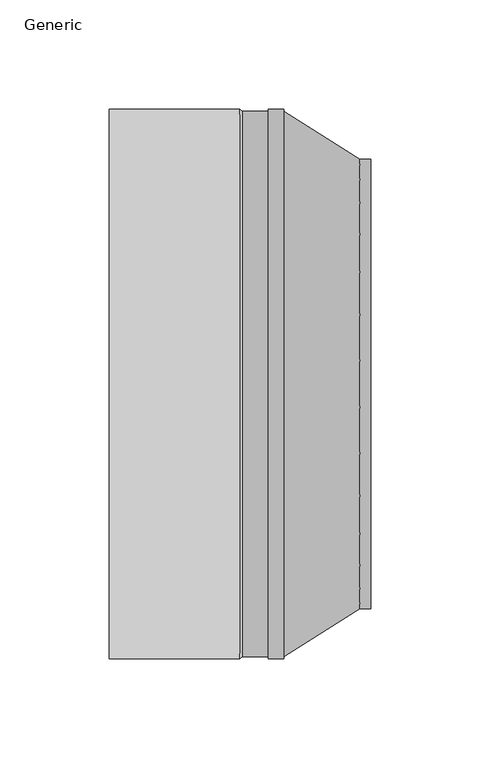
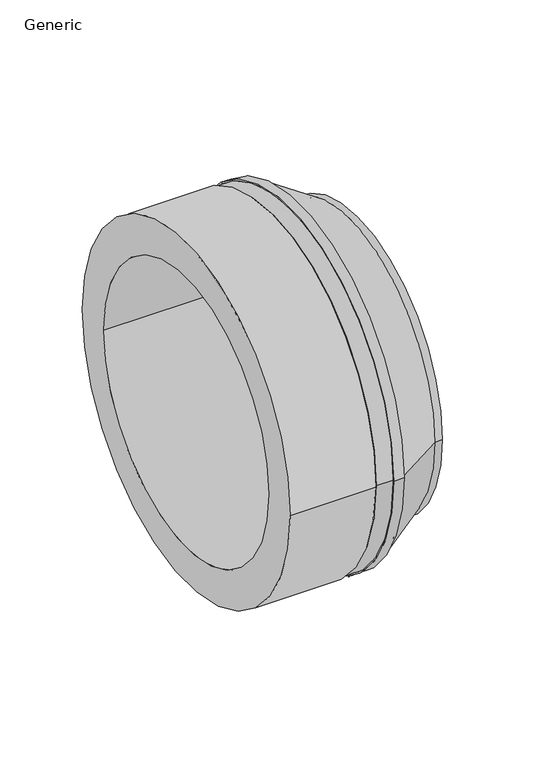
"""IFC4 building model written with IfcOpenShell, lengths in millimetres: pipe fitting geometry, CADS_Jeremias_TopStub_Socket : Generic."""

import ifcopenshell
import ifcopenshell.guid

model = None  # the IFC model being written
_history = None  # IfcOwnerHistory: only IFC2X3 demands one
_inside = {}  # id of a spatial element -> (the spatial element, [elements in it])
_under = {}  # id of a project, library or spatial element -> (it, [spatial elements below it])
_declared = {}  # id of a project -> (the project, [libraries it declares])
_typed = {}  # id of a type object -> (the type object, [elements of that type])
_made_of = {}  # id of a material, layer set ... -> (it, [elements and type objects made of it])


def new_model(schema):
    """Start an empty IFC model of exactly this schema.

    Asked for "IFC4X3", IfcOpenShell would pick the latest addendum, in which some entities
    have other attributes; the version numbers below select the first issue.
    IFC2X3 requires an IfcOwnerHistory on every rooted entity: one is made here for all.
    """
    global model, _history
    if schema == "IFC4X3":
        model = ifcopenshell.file(schema_version=(4, 3, 0, 0))
    else:
        model = ifcopenshell.file(schema=schema)
    _inside.clear()
    _under.clear()
    _declared.clear()
    _typed.clear()
    _made_of.clear()
    _history = None
    if model.schema == "IFC2X3":
        org = make("IfcOrganization", Name="unknown")
        user = make(
            "IfcPersonAndOrganization",
            ThePerson=make("IfcPerson", FamilyName="unknown"),
            TheOrganization=org,
        )
        app = make(
            "IfcApplication",
            ApplicationDeveloper=org,
            Version="unknown",
            ApplicationFullName="unknown",
            ApplicationIdentifier="unknown",
        )
        _history = make(
            "IfcOwnerHistory",
            OwningUser=user,
            OwningApplication=app,
            ChangeAction="ADDED",
            CreationDate=0,
        )
    return model


def make(cls, **values):
    """One entity of the class cls with the attributes given. An attribute that is None is left unset."""
    return model.create_entity(
        cls, **{name: value for name, value in values.items() if value is not None}
    )


def rooted(cls, **values):
    """An entity with a GlobalId (a new one), such as an element, a storey or a relation."""
    return make(cls, GlobalId=ifcopenshell.guid.new(), OwnerHistory=_history, **values)


def si_unit(unit_type, name, prefix=None):
    """IfcSIUnit, for example si_unit("LENGTHUNIT", "METRE", prefix="MILLI")."""
    return make("IfcSIUnit", UnitType=unit_type, Prefix=prefix, Name=name)


def assignment(units):
    """IfcUnitAssignment: the units of a project."""
    return None if units is None else make("IfcUnitAssignment", Units=units)


def point(xyz):
    """IfcCartesianPoint."""
    return None if xyz is None else make("IfcCartesianPoint", Coordinates=xyz)


def direction(xyz):
    """IfcDirection."""
    return None if xyz is None else make("IfcDirection", DirectionRatios=xyz)


def frame(location, z_axis=None, x_axis=None):
    """IfcAxis2Placement3D, a coordinate frame: its origin and axes. An axis left out is left unset."""
    return make(
        "IfcAxis2Placement3D",
        Location=point(location),
        Axis=direction(z_axis),
        RefDirection=direction(x_axis),
    )


def origin():
    """The frame at (0, 0, 0) with its axes left unset."""
    return frame((0.0, 0.0, 0.0))


def place(relative_to, where):
    """IfcLocalPlacement: puts the frame where relative to a parent placement (None: the world)."""
    return make(
        "IfcLocalPlacement", PlacementRelTo=relative_to, RelativePlacement=where
    )


def context(
    kind, dimensions, precision=None, world=None, true_north=None, identifier=None
):
    """IfcGeometricRepresentationContext, for example the 3D "Model" context."""
    return make(
        "IfcGeometricRepresentationContext",
        ContextIdentifier=identifier,
        ContextType=kind,
        CoordinateSpaceDimension=dimensions,
        Precision=precision,
        WorldCoordinateSystem=world,
        TrueNorth=true_north,
    )


def project(units=None, contexts=None):
    """IfcProject with its units and contexts."""
    return rooted(
        "IfcProject",
        Name="project",
        RepresentationContexts=contexts,
        UnitsInContext=assignment(units),
    )


def spatial(cls, under=None, at=None, **own):
    """A site, building, storey or space (cls), placed at a placement, below another one or the project."""
    s = rooted(cls, ObjectPlacement=at, **own)
    if under is not None:
        _under.setdefault(under.id(), (under, []))[1].append(s)
    return s


def polyline(points):
    """IfcPolyline through the points."""
    return make("IfcPolyline", Points=[point(p) for p in points])


def circle_curve(where, radius):
    """IfcCircle in the frame where."""
    return make("IfcCircle", Position=where, Radius=radius)


def shape(context_of_items, identifier, shape_type, items):
    """IfcShapeRepresentation: the items that make up one representation, for example the "Body"."""
    return make(
        "IfcShapeRepresentation",
        ContextOfItems=context_of_items,
        RepresentationIdentifier=identifier,
        RepresentationType=shape_type,
        Items=items,
    )


def source(mapping_origin, context_of_items, identifier, shape_type, items):
    """IfcRepresentationMap: a shape defined once, which mapped items show again and again."""
    return make(
        "IfcRepresentationMap",
        MappingOrigin=mapping_origin,
        MappedRepresentation=shape(context_of_items, identifier, shape_type, items),
    )


def transform(
    local_origin,
    x_axis=None,
    y_axis=None,
    z_axis=None,
    scale=None,
    scale2=None,
    scale3=None,
    uniform=True,
):
    """IfcCartesianTransformationOperator3D, or its non-uniform kind. x_axis, y_axis, z_axis: its Axis1, 2, 3."""
    if uniform:
        return make(
            "IfcCartesianTransformationOperator3D",
            Axis1=direction(x_axis),
            Axis2=direction(y_axis),
            LocalOrigin=point(local_origin),
            Scale=scale,
            Axis3=direction(z_axis),
        )
    return make(
        "IfcCartesianTransformationOperator3DnonUniform",
        Axis1=direction(x_axis),
        Axis2=direction(y_axis),
        LocalOrigin=point(local_origin),
        Scale=scale,
        Axis3=direction(z_axis),
        Scale2=scale2,
        Scale3=scale3,
    )


def mapped(mapping_source, mapping_target):
    """IfcMappedItem: shows the shape of a source again, moved by a transform."""
    return make(
        "IfcMappedItem", MappingSource=mapping_source, MappingTarget=mapping_target
    )


def made_of(thing, what):
    """Note that an element or type object is made of a material, layer set ...; save() writes the relation."""
    if what is not None:
        _made_of.setdefault(what.id(), (what, []))[1].append(thing)
    return thing


def element(
    cls,
    number,
    at=None,
    inside=None,
    cuts=None,
    type_object=None,
    material=None,
    context=None,
    identifier="Body",
    shape_type=None,
    held_by="IfcProductDefinitionShape",
    body=None,
    shapes=None,
    **own,
):
    """One element of the class cls, such as IfcWall. Its Tag is "e" and its number.

    at: its placement. inside: the storey or other place that contains it. cuts: it is an
    opening in that element (IfcRelVoidsElement). A single representation is given by context,
    identifier, shape_type and body (its items); several are given by shapes. held_by: the class
    of the entity that holds the representations. save() writes the other relations.
    """
    e = rooted(cls, Tag="e%d" % number, ObjectPlacement=at, **own)
    if body is not None:
        shapes = [shape(context, identifier, shape_type, body)]
    if shapes is not None:
        e.Representation = make(held_by, Representations=shapes)
    if inside is not None:
        _inside.setdefault(inside.id(), (inside, []))[1].append(e)
    if cuts is not None:
        rooted(
            "IfcRelVoidsElement", RelatingBuildingElement=cuts, RelatedOpeningElement=e
        )
    if type_object is not None:
        _typed.setdefault(type_object.id(), (type_object, []))[1].append(e)
    return made_of(e, material)


def aggregate(whole, parts):
    """IfcRelAggregates: a whole, such as a stair, and the parts it consists of."""
    return rooted("IfcRelAggregates", RelatingObject=whole, RelatedObjects=parts)


def save(model, path):
    """Write the relations noted so far, then the file.

    IfcRelAggregates (storeys below a building ...), IfcRelContainedInSpatialStructure (elements
    in a storey), IfcRelDefinesByType, IfcRelAssociatesMaterial and IfcRelDeclares: one each for
    every whole, place, type object, material and project.
    """
    for whole, parts in _under.values():
        aggregate(whole, parts)
    for where, things in _inside.values():
        rooted(
            "IfcRelContainedInSpatialStructure",
            RelatedElements=things,
            RelatingStructure=where,
        )
    for kind, things in _typed.values():
        rooted("IfcRelDefinesByType", RelatedObjects=things, RelatingType=kind)
    for what, things in _made_of.values():
        rooted("IfcRelAssociatesMaterial", RelatedObjects=things, RelatingMaterial=what)
    for by, libraries in _declared.values():
        rooted("IfcRelDeclares", RelatingContext=by, RelatedDefinitions=libraries)
    model.write(path)


def plane_surface(at):
    """IfcPlane: the flat surface through the origin of the frame at, square to its z axis."""
    return make("IfcPlane", Position=at)


def cylinder_surface(at, radius):
    """IfcCylindricalSurface: all points at the distance radius from the z axis of the frame at."""
    return make("IfcCylindricalSurface", Position=at, Radius=radius)


def revolved_surface(curve, axis_point, axis_direction):
    """IfcSurfaceOfRevolution: the curve turned about the line through axis_point along axis_direction."""
    return make(
        "IfcSurfaceOfRevolution",
        SweptCurve=make("IfcArbitraryOpenProfileDef", ProfileType="CURVE", Curve=curve),
        AxisPosition=make("IfcAxis1Placement", Location=point(axis_point), Axis=direction(axis_direction)),
    )


def advanced_brep(points, edges, surfaces, faces):
    """IfcAdvancedBrep: a solid bounded by faces that lie on surfaces and meet in shared edges.

    An edge is (start, end): straight between two places in points (the first is 0);
    or (start, end, curve); or (start, end, curve, False) where it runs against its curve.
    A face is (place in surfaces, loops), or (place, loops, False) where it looks against
    its surface's normal. A loop lists edges by number (the first is 1), with a minus sign
    where the edge is run from its end to its start. The first loop is the outer one.
    """
    corners = [point(p) for p in points]
    vertices = [make("IfcVertexPoint", VertexGeometry=c) for c in corners]
    made = []
    for start, end, *more in edges:
        made.append(
            make(
                "IfcEdgeCurve",
                EdgeStart=vertices[start],
                EdgeEnd=vertices[end],
                EdgeGeometry=more[0] if more else make("IfcPolyline", Points=[corners[start], corners[end]]),
                SameSense=more[1] if len(more) > 1 else True,
            )
        )
    hull = []
    for where, loops, *sense in faces:
        bounds = []
        for j, loop in enumerate(loops):
            ring = [make("IfcOrientedEdge", EdgeElement=made[abs(k) - 1], Orientation=k > 0) for k in loop]
            bounds.append(
                make(
                    "IfcFaceOuterBound" if j == 0 else "IfcFaceBound",
                    Bound=make("IfcEdgeLoop", EdgeList=ring),
                    Orientation=True,
                )
            )
        hull.append(make("IfcAdvancedFace", Bounds=bounds, FaceSurface=surfaces[where], SameSense=sense[0] if sense else True))
    return make("IfcAdvancedBrep", Outer=make("IfcClosedShell", CfsFaces=hull))


def generic_ef8c256f(model_context):
    return source(origin(), model_context, "Body", "AdvancedBrep", [
        advanced_brep(
        [(0.0, 126.0, 0.0), (0.0, -126.0, 0.0), (-60.0, -126.0, 0.0), (-60.0, 126.0, 0.0), (1.0, 125.0, 0.0), (1.0, -125.0, 0.0), (-60.0, -100.0, 0.0), (-60.0, 100.0, 0.0), (12.9992606, -126.0, 0.0), (12.9992606, 126.0, 0.0), (20.0, 126.0, 0.0), (20.0, -126.0, 0.0), (12.9992606, -125.0, 0.0), (12.9992606, 125.0, 0.0), (60.0, -100.0, 0.0), (60.0, 100.0, 0.0), (60.0, -103.0, 0.0), (60.0, 103.0, 0.0), (55.0, -103.0, 0.0), (55.0, 103.0, 0.0), (20.0, -125.0, 0.0), (20.0, 125.0, 0.0)],
        [
            (0, 1, circle_curve(frame((0.0, 0.0, 0.0), z_axis=(-1.0, 0.0, 0.0), x_axis=(0.0, -1.0, 0.0)), 126.0)),
            (1, 2),
            (2, 3, circle_curve(frame((-60.0, 0.0, 0.0), z_axis=(1.0, 0.0, 0.0), x_axis=(0.0, -1.0, 0.0)), 126.0)),
            (3, 0),
            (0, 4),
            (4, 5, circle_curve(frame((1.0, 0.0, 0.0), z_axis=(-1.0, 0.0, 0.0), x_axis=(0.0, -1.0, 0.0)), 125.0)),
            (5, 1),
            (2, 3, circle_curve(frame((-60.0, 0.0, 0.0), z_axis=(-1.0, 0.0, 0.0), x_axis=(0.0, 1.0, 0.0)), 126.0)),
            (6, 7, circle_curve(frame((-60.0, 0.0, 0.0), z_axis=(1.0, 0.0, 0.0), x_axis=(0.0, 1.0, 0.0)), 100.0)),
            (7, 6, circle_curve(frame((-60.0, 0.0, 0.0), z_axis=(1.0, 0.0, 0.0), x_axis=(0.0, 1.0, 0.0)), 100.0)),
            (1, 0, circle_curve(frame((0.0, 0.0, 0.0), z_axis=(-1.0, 0.0, 0.0), x_axis=(0.0, 1.0, 0.0)), 126.0)),
            (5, 4, circle_curve(frame((1.0, 0.0, 0.0), z_axis=(-1.0, 0.0, 0.0), x_axis=(0.0, 1.0, 0.0)), 125.0)),
            (8, 9, circle_curve(frame((12.9992606, 0.0, 0.0), z_axis=(1.0, 0.0, 0.0), x_axis=(0.0, 1.0, 0.0)), 126.0)),
            (9, 10),
            (10, 11, circle_curve(frame((20.0, 0.0, 0.0), z_axis=(-1.0, 0.0, 0.0), x_axis=(0.0, 1.0, 0.0)), 126.0)),
            (11, 8),
            (9, 8, circle_curve(frame((12.9992606, 0.0, 0.0), z_axis=(1.0, 0.0, 0.0), x_axis=(0.0, 1.0, 0.0)), 126.0)),
            (11, 10, circle_curve(frame((20.0, 0.0, 0.0), z_axis=(-1.0, 0.0, 0.0), x_axis=(0.0, 1.0, 0.0)), 126.0)),
            (8, 12),
            (12, 13, circle_curve(frame((12.9992606, 0.0, 0.0), z_axis=(1.0, 0.0, 0.0), x_axis=(0.0, 1.0, 0.0)), 125.0)),
            (13, 9),
            (13, 12, circle_curve(frame((12.9992606, 0.0, 0.0), z_axis=(1.0, 0.0, 0.0), x_axis=(0.0, 1.0, 0.0)), 125.0)),
            (12, 5),
            (4, 13),
            (6, 14),
            (14, 15, circle_curve(frame((60.0, 0.0, 0.0), z_axis=(1.0, 0.0, 0.0), x_axis=(0.0, 1.0, 0.0)), 100.0)),
            (15, 7),
            (15, 14, circle_curve(frame((60.0, 0.0, 0.0), z_axis=(1.0, 0.0, 0.0), x_axis=(0.0, 1.0, 0.0)), 100.0)),
            (14, 16),
            (16, 17, circle_curve(frame((60.0, 0.0, 0.0), z_axis=(1.0, 0.0, 0.0), x_axis=(0.0, 1.0, 0.0)), 103.0)),
            (17, 15),
            (17, 16, circle_curve(frame((60.0, 0.0, 0.0), z_axis=(1.0, 0.0, 0.0), x_axis=(0.0, 1.0, 0.0)), 103.0)),
            (16, 18),
            (18, 19, circle_curve(frame((55.0, 0.0, 0.0), z_axis=(1.0, 0.0, 0.0), x_axis=(0.0, 1.0, 0.0)), 103.0)),
            (19, 17),
            (19, 18, circle_curve(frame((55.0, 0.0, 0.0), z_axis=(1.0, 0.0, 0.0), x_axis=(0.0, 1.0, 0.0)), 103.0)),
            (18, 20),
            (20, 21, circle_curve(frame((20.0, 0.0, 0.0), z_axis=(1.0, 0.0, 0.0), x_axis=(0.0, 1.0, 0.0)), 125.0)),
            (21, 19),
            (21, 20, circle_curve(frame((20.0, 0.0, 0.0), z_axis=(1.0, 0.0, 0.0), x_axis=(0.0, 1.0, 0.0)), 125.0)),
            (10, 21),
            (20, 11),
        ],
        [
            cylinder_surface(frame((-60.0, 0.0, 0.0), z_axis=(1.0, 0.0, 0.0), x_axis=(0.0, -1.0, 0.0)), 126.0),
            revolved_surface(polyline([(0.0, -126.0, 0.0), (1.0, -125.0, 0.0)]), (-60.0, 0.0, 0.0), (1.0, 0.0, 0.0)),
            plane_surface(frame((-60.0, 0.0, 0.0), z_axis=(-1.0, 0.0, 0.0), x_axis=(0.0, 1.0, 0.0))),
            cylinder_surface(frame((-60.0, 0.0, 0.0), z_axis=(1.0, 0.0, 0.0), x_axis=(0.0, 1.0, 0.0)), 126.0),
            revolved_surface(polyline([(0.0, 126.0, 0.0), (1.0, 125.0, 0.0)]), (-60.0, 0.0, 0.0), (1.0, 0.0, 0.0)),
            cylinder_surface(frame((2261.6015892, 0.0, 0.0), z_axis=(-1.0, 0.0, 0.0), x_axis=(0.0, 1.0, 0.0)), 126.0),
            plane_surface(frame((12.9992606, 0.0, 0.0), z_axis=(-1.0, 0.0, 0.0), x_axis=(0.0, 1.0, 0.0))),
            cylinder_surface(frame((2261.6015892, 0.0, 0.0), z_axis=(-1.0, 0.0, 0.0), x_axis=(0.0, 1.0, 0.0)), 125.0),
            revolved_surface(polyline([(-60.0, 100.0, 0.0), (60.0, 100.0, 0.0)]), (2261.6015892, 0.0, 0.0), (-1.0, 0.0, 0.0)),
            plane_surface(frame((60.0, 0.0, 0.0), z_axis=(1.0, 0.0, 0.0), x_axis=(0.0, 1.0, 0.0))),
            cylinder_surface(frame((2261.6015892, 0.0, 0.0), z_axis=(-1.0, 0.0, 0.0), x_axis=(0.0, 1.0, 0.0)), 103.0),
            revolved_surface(polyline([(55.0, 103.0, 0.0), (20.0, 125.0, 0.0)]), (2261.6015892, 0.0, 0.0), (-1.0, 0.0, 0.0)),
            plane_surface(frame((20.0, 0.0, 0.0), z_axis=(1.0, 0.0, 0.0), x_axis=(0.0, 1.0, 0.0))),
        ],
        [
            (0, [[1, 2, 3, 4]]),
            (1, [[-1, 5, 6, 7]]),
            (2, [[-3, 8], [9, 10]]),
            (3, [[-2, 11, -4, -8]]),
            (4, [[-7, 12, -5, -11]]),
            (5, [[13, 14, 15, 16]]),
            (5, [[-14, 17, -16, 18]]),
            (6, [[-13, 19, 20, 21]]),
            (6, [[-17, -21, 22, -19]]),
            (7, [[-20, 23, -6, 24]]),
            (7, [[-22, -24, -12, -23]]),
            (8, [[-9, 25, 26, 27]]),
            (8, [[-10, -27, 28, -25]]),
            (9, [[-26, 29, 30, 31]]),
            (9, [[-28, -31, 32, -29]]),
            (10, [[-30, 33, 34, 35]]),
            (10, [[-32, -35, 36, -33]]),
            (11, [[-34, 37, 38, 39]]),
            (11, [[-36, -39, 40, -37]]),
            (12, [[-15, 41, -38, 42]]),
            (12, [[-18, -42, -40, -41]]),
        ],
    ),
    ])


if __name__ == "__main__":
    model = new_model("IFC4")
    model_context = context("Model", 3, world=origin())
    ifc_project = project(units=[si_unit("LENGTHUNIT", "METRE", prefix="MILLI")], contexts=[model_context])
    site = spatial("IfcSite", under=ifc_project)
    building = spatial("IfcBuilding", under=site)
    placement = place(None, origin())
    generic_shape = generic_ef8c256f(model_context)
    element("IfcPipeFitting", 1, ObjectType="CADS_Jeremias_TopStub_Socket : Generic", at=placement, inside=building, context=model_context, shape_type="MappedRepresentation", body=[
        mapped(generic_shape, transform((0.0, 0.0, 0.0), x_axis=(1.0, 0.0, 0.0), y_axis=(0.0, 1.0, 0.0), z_axis=(0.0, 0.0, 1.0))),
    ])
    save(model, "model.ifc")
